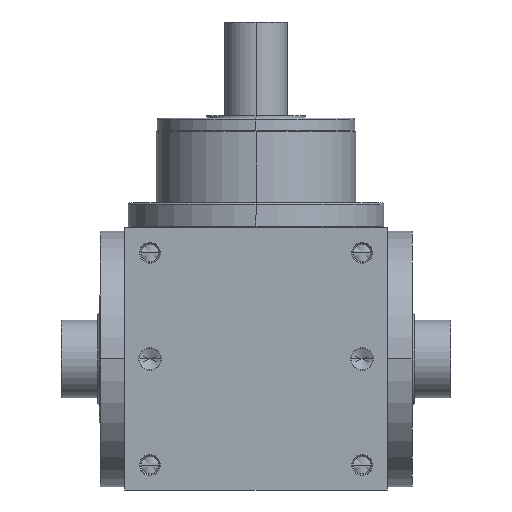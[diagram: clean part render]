
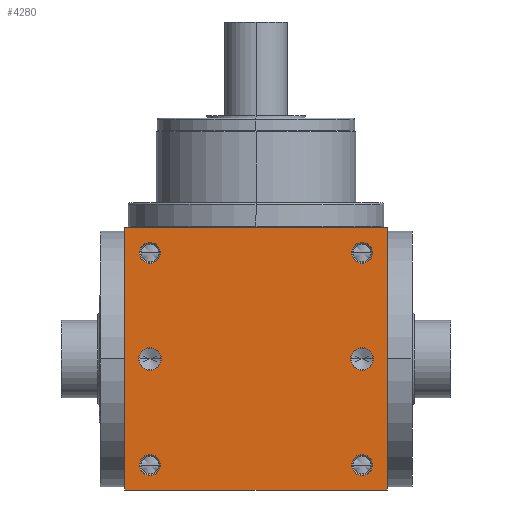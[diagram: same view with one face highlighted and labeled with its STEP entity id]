
A CAD part, front view. The second image highlights one B-rep face of the part: STEP entity #4280.
In plain terms, the highlighted planar face has unit normal (0, -1, 0).
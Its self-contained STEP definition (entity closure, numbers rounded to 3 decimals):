
#5=DIRECTION('',(1.,0.,0.));
#6=VECTOR('',#5,210.);
#7=CARTESIAN_POINT('',(-105.,-105.,-105.));
#8=LINE('',#7,#6);
#155=DIRECTION('',(0.,0.,1.));
#156=VECTOR('',#155,210.);
#157=CARTESIAN_POINT('',(105.,-105.,-105.));
#158=LINE('',#157,#156);
#209=DIRECTION('',(0.,0.,1.));
#210=VECTOR('',#209,210.);
#211=CARTESIAN_POINT('',(-105.,-105.,-105.));
#212=LINE('',#211,#210);
#213=CARTESIAN_POINT('',(85.,-105.,85.));
#214=DIRECTION('',(0.,1.,0.));
#215=DIRECTION('',(-1.,0.,0.));
#216=AXIS2_PLACEMENT_3D('',#213,#214,#215);
#218=CARTESIAN_POINT('',(85.,-105.,85.));
#219=DIRECTION('',(0.,1.,0.));
#220=DIRECTION('',(1.,0.,0.));
#221=AXIS2_PLACEMENT_3D('',#218,#219,#220);
#223=CARTESIAN_POINT('',(-85.,-105.,85.));
#224=DIRECTION('',(0.,1.,0.));
#225=DIRECTION('',(-1.,0.,0.));
#226=AXIS2_PLACEMENT_3D('',#223,#224,#225);
#228=CARTESIAN_POINT('',(-85.,-105.,85.));
#229=DIRECTION('',(0.,1.,0.));
#230=DIRECTION('',(1.,0.,0.));
#231=AXIS2_PLACEMENT_3D('',#228,#229,#230);
#233=CARTESIAN_POINT('',(85.,-105.,-85.));
#234=DIRECTION('',(0.,1.,0.));
#235=DIRECTION('',(-1.,0.,0.));
#236=AXIS2_PLACEMENT_3D('',#233,#234,#235);
#238=CARTESIAN_POINT('',(85.,-105.,-85.));
#239=DIRECTION('',(0.,1.,0.));
#240=DIRECTION('',(1.,0.,0.));
#241=AXIS2_PLACEMENT_3D('',#238,#239,#240);
#243=CARTESIAN_POINT('',(-85.,-105.,-85.));
#244=DIRECTION('',(0.,1.,0.));
#245=DIRECTION('',(-1.,0.,0.));
#246=AXIS2_PLACEMENT_3D('',#243,#244,#245);
#248=CARTESIAN_POINT('',(-85.,-105.,-85.));
#249=DIRECTION('',(0.,1.,0.));
#250=DIRECTION('',(1.,0.,0.));
#251=AXIS2_PLACEMENT_3D('',#248,#249,#250);
#253=CARTESIAN_POINT('',(-85.,-105.,0.));
#254=DIRECTION('',(0.,1.,0.));
#255=DIRECTION('',(1.,0.,0.));
#256=AXIS2_PLACEMENT_3D('',#253,#254,#255);
#258=CARTESIAN_POINT('',(-85.,-105.,0.));
#259=DIRECTION('',(0.,1.,0.));
#260=DIRECTION('',(-1.,0.,0.));
#261=AXIS2_PLACEMENT_3D('',#258,#259,#260);
#263=CARTESIAN_POINT('',(85.,-105.,0.));
#264=DIRECTION('',(0.,1.,0.));
#265=DIRECTION('',(1.,0.,0.));
#266=AXIS2_PLACEMENT_3D('',#263,#264,#265);
#268=CARTESIAN_POINT('',(85.,-105.,0.));
#269=DIRECTION('',(0.,1.,0.));
#270=DIRECTION('',(-1.,0.,0.));
#271=AXIS2_PLACEMENT_3D('',#268,#269,#270);
#285=DIRECTION('',(1.,0.,0.));
#286=VECTOR('',#285,210.);
#287=CARTESIAN_POINT('',(-105.,-105.,105.));
#288=LINE('',#287,#286);
#3454=CARTESIAN_POINT('',(-105.,-105.,-105.));
#3456=VERTEX_POINT('',#3454);
#3457=CARTESIAN_POINT('',(105.,-105.,-105.));
#3458=VERTEX_POINT('',#3457);
#3462=CARTESIAN_POINT('',(-105.,-105.,105.));
#3464=VERTEX_POINT('',#3462);
#3465=CARTESIAN_POINT('',(105.,-105.,105.));
#3466=VERTEX_POINT('',#3465);
#3621=CARTESIAN_POINT('',(76.6,-105.,85.));
#3622=CARTESIAN_POINT('',(93.4,-105.,85.));
#3623=VERTEX_POINT('',#3621);
#3624=VERTEX_POINT('',#3622);
#3629=CARTESIAN_POINT('',(-93.4,-105.,85.));
#3630=CARTESIAN_POINT('',(-76.6,-105.,85.));
#3631=VERTEX_POINT('',#3629);
#3632=VERTEX_POINT('',#3630);
#3637=CARTESIAN_POINT('',(76.6,-105.,-85.));
#3638=CARTESIAN_POINT('',(93.4,-105.,-85.));
#3639=VERTEX_POINT('',#3637);
#3640=VERTEX_POINT('',#3638);
#3645=CARTESIAN_POINT('',(-93.4,-105.,-85.));
#3646=CARTESIAN_POINT('',(-76.6,-105.,-85.));
#3647=VERTEX_POINT('',#3645);
#3648=VERTEX_POINT('',#3646);
#3969=CARTESIAN_POINT('',(-75.95,-105.,0.));
#3970=CARTESIAN_POINT('',(-94.05,-105.,
0.));
#3971=VERTEX_POINT('',#3969);
#3972=VERTEX_POINT('',#3970);
#3977=CARTESIAN_POINT('',(94.05,-105.,0.));
#3978=CARTESIAN_POINT('',(75.95,-105.,0.));
#3979=VERTEX_POINT('',#3977);
#3980=VERTEX_POINT('',#3978);
#4232=CARTESIAN_POINT('',(-105.,-105.,-105.));
#4233=DIRECTION('',(0.,-1.,0.));
#4234=DIRECTION('',(1.,0.,0.));
#4235=AXIS2_PLACEMENT_3D('',#4232,#4233,#4234);
#4236=PLANE('',#4235);
#4237=ORIENTED_EDGE('',*,*,#4072,.F.);
#4238=ORIENTED_EDGE('',*,*,#4115,.T.);
#4240=ORIENTED_EDGE('',*,*,#4239,.T.);
#4241=ORIENTED_EDGE('',*,*,#4194,.F.);
#4242=EDGE_LOOP('',(#4237,#4238,#4240,#4241));
#4243=FACE_OUTER_BOUND('',#4242,.F.);
#4245=ORIENTED_EDGE('',*,*,#4244,.F.);
#4247=ORIENTED_EDGE('',*,*,#4246,.F.);
#4248=EDGE_LOOP('',(#4245,#4247));
#4249=FACE_BOUND('',#4248,.F.);
#4251=ORIENTED_EDGE('',*,*,#4250,.F.);
#4253=ORIENTED_EDGE('',*,*,#4252,.F.);
#4254=EDGE_LOOP('',(#4251,#4253));
#4255=FACE_BOUND('',#4254,.F.);
#4257=ORIENTED_EDGE('',*,*,#4256,.F.);
#4259=ORIENTED_EDGE('',*,*,#4258,.F.);
#4260=EDGE_LOOP('',(#4257,#4259));
#4261=FACE_BOUND('',#4260,.F.);
#4263=ORIENTED_EDGE('',*,*,#4262,.F.);
#4265=ORIENTED_EDGE('',*,*,#4264,.F.);
#4266=EDGE_LOOP('',(#4263,#4265));
#4267=FACE_BOUND('',#4266,.F.);
#4269=ORIENTED_EDGE('',*,*,#4268,.F.);
#4271=ORIENTED_EDGE('',*,*,#4270,.F.);
#4272=EDGE_LOOP('',(#4269,#4271));
#4273=FACE_BOUND('',#4272,.F.);
#4275=ORIENTED_EDGE('',*,*,#4274,.F.);
#4277=ORIENTED_EDGE('',*,*,#4276,.F.);
#4278=EDGE_LOOP('',(#4275,#4277));
#4279=FACE_BOUND('',#4278,.F.);
#4280=ADVANCED_FACE('',(#4243,#4249,#4255,#4261,#4267,#4273,#4279),#4236,.T.);
#217=CIRCLE('',#216,8.4);
#222=CIRCLE('',#221,8.4);
#227=CIRCLE('',#226,8.4);
#232=CIRCLE('',#231,8.4);
#237=CIRCLE('',#236,8.4);
#242=CIRCLE('',#241,8.4);
#247=CIRCLE('',#246,8.4);
#252=CIRCLE('',#251,8.4);
#257=CIRCLE('',#256,9.05);
#262=CIRCLE('',#261,9.05);
#267=CIRCLE('',#266,9.05);
#272=CIRCLE('',#271,9.05);
#4072=EDGE_CURVE('',#3456,#3458,#8,.T.);
#4115=EDGE_CURVE('',#3456,#3464,#212,.T.);
#4194=EDGE_CURVE('',#3458,#3466,#158,.T.);
#4239=EDGE_CURVE('',#3464,#3466,#288,.T.);
#4244=EDGE_CURVE('',#3623,#3624,#217,.T.);
#4246=EDGE_CURVE('',#3624,#3623,#222,.T.);
#4250=EDGE_CURVE('',#3631,#3632,#227,.T.);
#4252=EDGE_CURVE('',#3632,#3631,#232,.T.);
#4256=EDGE_CURVE('',#3639,#3640,#237,.T.);
#4258=EDGE_CURVE('',#3640,#3639,#242,.T.);
#4262=EDGE_CURVE('',#3647,#3648,#247,.T.);
#4264=EDGE_CURVE('',#3648,#3647,#252,.T.);
#4268=EDGE_CURVE('',#3971,#3972,#257,.T.);
#4270=EDGE_CURVE('',#3972,#3971,#262,.T.);
#4274=EDGE_CURVE('',#3979,#3980,#267,.T.);
#4276=EDGE_CURVE('',#3980,#3979,#272,.T.);
